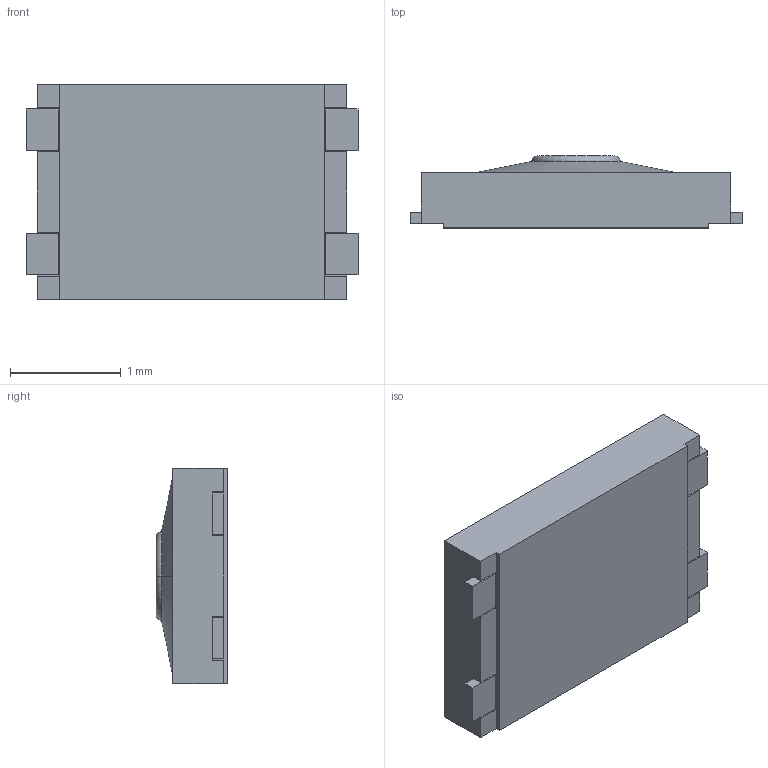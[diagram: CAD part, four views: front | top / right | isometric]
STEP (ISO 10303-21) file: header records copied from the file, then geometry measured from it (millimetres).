
FILE_DESCRIPTION((''),'2;1');
FILE_NAME('JQA1928F-A0061-01EG-1-103_ASM','2026-05-20T17:21:40',('Admin'),(''),'CREO PARAMETRIC BY PTC INC, 2019224','CREO PARAMETRIC BY PTC INC, 2019224','');
FILE_SCHEMA(('AUTOMOTIVE_DESIGN { 1 0 10303 214 1 1 1 1 }'));
Length unit declared in the file: millimetre
Products named in the file (2): JQA1928F-A0061-01EG-1-103_01; JQA1928F-A0061-01EG-1-103_ASM
Assembly tree (1 placements, depth 2):
  JQA1928F-A0061-01EG-1-103_ASM
    JQA1928F-A0061-01EG-1-103_01
Bounding box: 3 x 0.65 x 1.95 mm (x, y, z)
Volume: 2.9 mm3; surface area: 16.7 mm2
Topology: 1 solids, 1 shells, 55 faces, 150 edges, 98 vertices
Faces by surface type: plane 51, cone 2, torus 2
Entity records: 2593 total; most frequent: CARTESIAN_POINT 309, ORIENTED_EDGE 292, DIRECTION 280, PRESENTATION_STYLE_ASSIGNMENT 179, STYLED_ITEM 153, CURVE_STYLE 152, EDGE_CURVE 146, VECTOR 142
